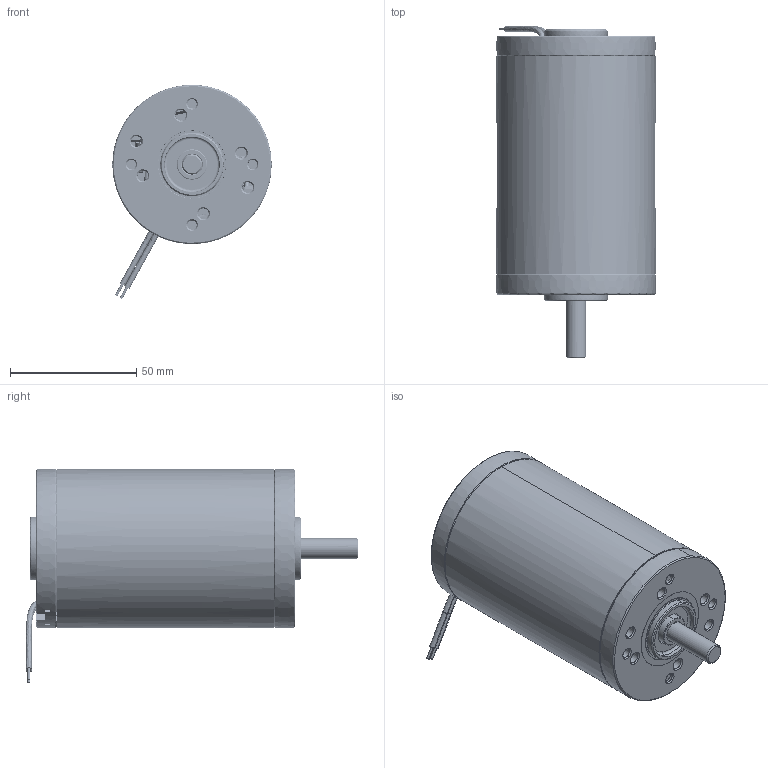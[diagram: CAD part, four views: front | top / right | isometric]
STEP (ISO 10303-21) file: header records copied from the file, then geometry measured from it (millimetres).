
FILE_DESCRIPTION((''),'2;1');
FILE_NAME('BGO1_82830502_SW0002','2014-04-29T',('ALEBGO1'),('CROUZET-AUTOMATISMES'),'PRO/ENGINEER BY PARAMETRIC TECHNOLOGY CORPORATION, 2010280','PRO/ENGINEER BY PARAMETRIC TECHNOLOGY CORPORATION, 2010280','');
FILE_SCHEMA(('CONFIG_CONTROL_DESIGN'));
Products named in the file (1): BGO1_82830502_SW0002
Bounding box: 63 x 131.4 x 84.79 mm (x, y, z)
Surface area: 120404.3 mm2 (no closed solid volume)
Topology: 0 solids, 0 shells, 4965 faces, 23338 edges, 23234 vertices
Faces by surface type: bspline 4726, torus 219, sphere 20
Entity records: 715594 total; most frequent: CARTESIAN_POINT 484722, DIRECTION 39415, TRIMMED_CURVE 33940, VECTOR 28943, LINE 28943, DEFINITIONAL_REPRESENTATION 23145, PCURVE 23145, COMPOSITE_CURVE_SEGMENT 23145
